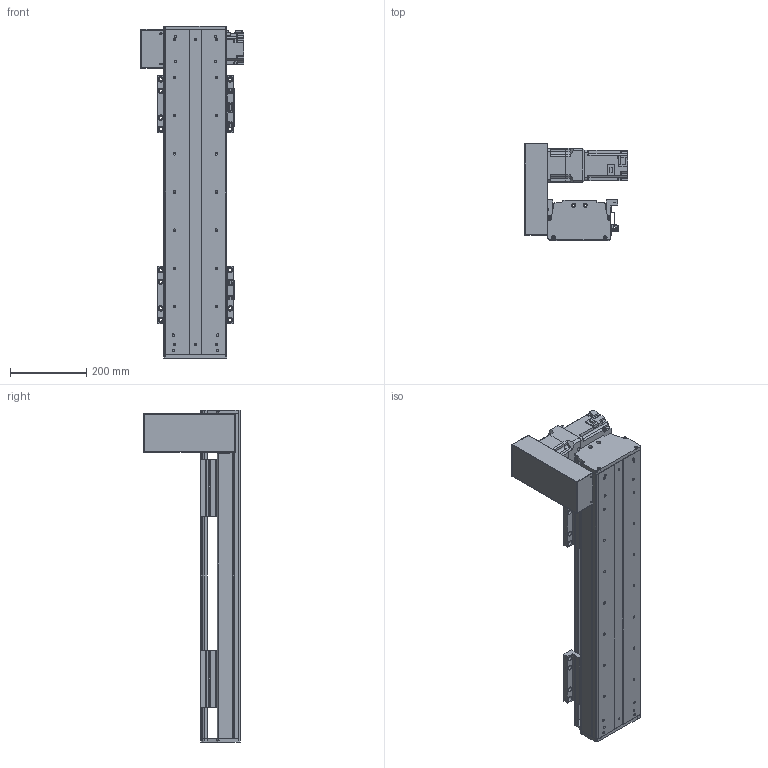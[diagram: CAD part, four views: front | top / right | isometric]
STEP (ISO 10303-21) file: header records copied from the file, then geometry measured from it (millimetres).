
FILE_DESCRIPTION(/* description */ (''),/* implementation_level */ '2;1');
FILE_NAME(/* name */ 'C:\Users\PC\Desktop\3D도면\STEP\DSB165-UL7G-W0500-R.stp',/* time_stamp */ '2018-06-25T15:09:19+09:00',/* author */ ('PC'),/* organization */ (''),/* preprocessor_version */ 'ST-DEVELOPER v16.5',/* originating_system */ 'Autodesk Inventor 2017',/* authorisation */ '');
FILE_SCHEMA (('AUTOMOTIVE_DESIGN { 1 0 10303 214 3 1 1 }'));
Length unit declared in the file: millimetre
Products named in the file (12): DSB165-L; DSR165-BASE_S; hg-kr73_; ab0901-p0401300102; 11-DBS165 BELT COVER; DBS165-COVER; DBS165-COVER_1; DBS165-UP COVER; DSR126-SENSOR DOG; pm-y65_step; SENSOR BRACKET(EE-SX674A); DBS165-TABLE(MSA20S)
Assembly tree (16 placements, depth 2):
  DSB165-L
    DSR165-BASE_S
    hg-kr73_
    ab0901-p0401300102
    11-DBS165 BELT COVER
    DBS165-COVER
    DBS165-COVER_1
    DBS165-UP COVER
    DSR126-SENSOR DOG
    pm-y65_step  x3
    SENSOR BRACKET(EE-SX674A)  x3
    DBS165-TABLE(MSA20S)  x2
Bounding box: 270 x 254 x 870 mm (x, y, z)
Volume: 6581578.7 mm3; surface area: 1511567.1 mm2
Topology: 17 solids, 22 shells, 1659 faces, 4457 edges, 2942 vertices
Faces by surface type: plane 926, cylinder 615, cone 106, sphere 8, torus 4
Full cylindrical faces by diameter (mm): 2.459 x20, 3.5 x6, 4.134 x42, 4.5 x18, 5 x27, 5.5 x36, 5.9 x4, 6 x8, 6.6 x14, 6.647 x34, 6.8 x1, 7 x4, 7.6 x4, 8 x1, 8.4 x1, 8.5 x24, 8.7 x1, 9.5 x32, 11 x6, 14 x16, 19 x1, 22 x1, 24 x1, 25 x1, 28 x1, 67 x1, 70 x2, 80 x1
Entity records: 35309 total; most frequent: DIRECTION 6236, CARTESIAN_POINT 6055, ORIENTED_EDGE 5518, EDGE_CURVE 2764, AXIS2_PLACEMENT_3D 2288, VERTEX_POINT 1969, EDGE_LOOP 1715, LINE 1660
